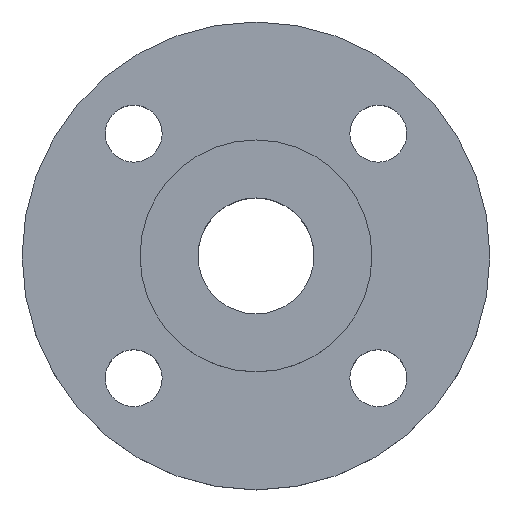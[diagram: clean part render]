
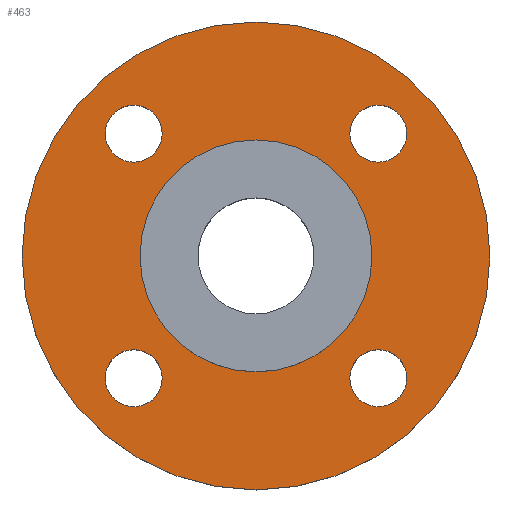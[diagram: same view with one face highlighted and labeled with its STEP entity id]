
A CAD part, top view. The second image highlights one B-rep face of the part: STEP entity #463.
In plain terms, the highlighted planar face has unit normal (0, 0, 1).
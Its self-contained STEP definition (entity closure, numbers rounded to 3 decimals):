
#26 = CIRCLE ( 'NONE', #361, 28.5 ) ;
#52 = DIRECTION ( 'NONE',  ( 0., 0., -1. ) ) ;
#53 = DIRECTION ( 'NONE',  ( -1., 0., 0. ) ) ;
#57 = CARTESIAN_POINT ( 'NONE',  ( 57.5, 0., -4.5 ) ) ;
#60 = CARTESIAN_POINT ( 'NONE',  ( 0., 0., -4.5 ) ) ;
#86 = CARTESIAN_POINT ( 'NONE',  ( 23.052, -30.052, -4.5 ) ) ;
#112 = CARTESIAN_POINT ( 'NONE',  ( -28.5, 0., -4.5 ) ) ;
#113 = CARTESIAN_POINT ( 'NONE',  ( -23.052, -30.052, -4.5 ) ) ;
#117 = CARTESIAN_POINT ( 'NONE',  ( 37.052, -30.052, -4.5 ) ) ;
#147 = CARTESIAN_POINT ( 'NONE',  ( 37.052, 30.052, -4.5 ) ) ;
#148 = DIRECTION ( 'NONE',  ( 1., 0., 0. ) ) ;
#149 = DIRECTION ( 'NONE',  ( 0., 0., -1. ) ) ;
#150 = CARTESIAN_POINT ( 'NONE',  ( -30.052, 30.052, -4.5 ) ) ;
#152 = DIRECTION ( 'NONE',  ( -1., 0., 0. ) ) ;
#153 = DIRECTION ( 'NONE',  ( 0., 0., -1. ) ) ;
#156 = CIRCLE ( 'NONE', #157, 7. ) ;
#157 = AXIS2_PLACEMENT_3D ( 'NONE', #775, #776, #777 ) ;
#159 = CARTESIAN_POINT ( 'NONE',  ( 0., 0., -4.5 ) ) ;
#175 = CARTESIAN_POINT ( 'NONE',  ( -57.5, 0., -4.5 ) ) ;
#179 = CARTESIAN_POINT ( 'NONE',  ( -37.052, -30.052, -4.5 ) ) ;
#180 = CIRCLE ( 'NONE', #184, 7. ) ;
#184 = AXIS2_PLACEMENT_3D ( 'NONE', #790, #791, #792 ) ;
#187 = CARTESIAN_POINT ( 'NONE',  ( -37.052, 30.052, -4.5 ) ) ;
#190 = CARTESIAN_POINT ( 'NONE',  ( -23.052, 30.052, -4.5 ) ) ;
#198 = CARTESIAN_POINT ( 'NONE',  ( 28.5, 0., -4.5 ) ) ;
#209 = CIRCLE ( 'NONE', #211, 57.5 ) ;
#211 = AXIS2_PLACEMENT_3D ( 'NONE', #806, #808, #809 ) ;
#214 = EDGE_CURVE ( 'NONE', #482, #615, #156, .T. ) ;
#222 = CARTESIAN_POINT ( 'NONE',  ( 23.052, 30.052, -4.5 ) ) ;
#224 = FACE_OUTER_BOUND ( 'NONE', #519, .T. ) ;
#225 = DIRECTION ( 'NONE',  ( 0., 0., 1. ) ) ;
#226 = DIRECTION ( 'NONE',  ( 1., 0., 0. ) ) ;
#228 = CARTESIAN_POINT ( 'NONE',  ( 28.5, 0., -4.5 ) ) ;
#230 = DIRECTION ( 'NONE',  ( 0., 0., -1. ) ) ;
#232 = PLANE ( 'NONE',  #320 ) ;
#237 = EDGE_CURVE ( 'NONE', #478, #476, #180, .T. ) ;
#242 = CIRCLE ( 'NONE', #243, 7. ) ;
#243 = AXIS2_PLACEMENT_3D ( 'NONE', #374, #376, #378 ) ;
#255 = FACE_BOUND ( 'NONE', #507, .T. ) ;
#258 = CARTESIAN_POINT ( 'NONE',  ( 30.052, -30.052, -4.5 ) ) ;
#261 = CARTESIAN_POINT ( 'NONE',  ( 0., 0., -4.5 ) ) ;
#274 = CIRCLE ( 'NONE', #275, 57.5 ) ;
#275 = AXIS2_PLACEMENT_3D ( 'NONE', #261, #280, #306 ) ;
#277 = EDGE_CURVE ( 'NONE', #677, #485, #209, .T. ) ;
#278 = CIRCLE ( 'NONE', #279, 7. ) ;
#279 = AXIS2_PLACEMENT_3D ( 'NONE', #258, #312, #299 ) ;
#280 = DIRECTION ( 'NONE',  ( 0., 0., -1. ) ) ;
#283 = CIRCLE ( 'NONE', #284, 7. ) ;
#284 = AXIS2_PLACEMENT_3D ( 'NONE', #309, #294, #304 ) ;
#294 = DIRECTION ( 'NONE',  ( 0., 0., -1. ) ) ;
#299 = DIRECTION ( 'NONE',  ( 1., 0., 0. ) ) ;
#303 = CIRCLE ( 'NONE', #308, 7. ) ;
#304 = DIRECTION ( 'NONE',  ( 1., 0., 0. ) ) ;
#306 = DIRECTION ( 'NONE',  ( -1., 0., 0. ) ) ;
#308 = AXIS2_PLACEMENT_3D ( 'NONE', #437, #438, #441 ) ;
#309 = CARTESIAN_POINT ( 'NONE',  ( -30.052, -30.052, -4.5 ) ) ;
#312 = DIRECTION ( 'NONE',  ( 0., 0., -1. ) ) ;
#314 = CIRCLE ( 'NONE', #316, 7. ) ;
#316 = AXIS2_PLACEMENT_3D ( 'NONE', #352, #230, #325 ) ;
#320 = AXIS2_PLACEMENT_3D ( 'NONE', #228, #225, #226 ) ;
#325 = DIRECTION ( 'NONE',  ( 1., 0., 0. ) ) ;
#344 = CIRCLE ( 'NONE', #345, 28.5 ) ;
#345 = AXIS2_PLACEMENT_3D ( 'NONE', #159, #153, #152 ) ;
#350 = FACE_BOUND ( 'NONE', #621, .T. ) ;
#351 = FACE_BOUND ( 'NONE', #580, .T. ) ;
#352 = CARTESIAN_POINT ( 'NONE',  ( 30.052, 30.052, -4.5 ) ) ;
#353 = CIRCLE ( 'NONE', #355, 7. ) ;
#355 = AXIS2_PLACEMENT_3D ( 'NONE', #150, #149, #148 ) ;
#361 = AXIS2_PLACEMENT_3D ( 'NONE', #60, #52, #53 ) ;
#374 = CARTESIAN_POINT ( 'NONE',  ( 30.052, -30.052, -4.5 ) ) ;
#376 = DIRECTION ( 'NONE',  ( 0., 0., -1. ) ) ;
#378 = DIRECTION ( 'NONE',  ( 1., 0., 0. ) ) ;
#396 = EDGE_CURVE ( 'NONE', #591, #638, #242, .T. ) ;
#421 = FACE_BOUND ( 'NONE', #573, .T. ) ;
#426 = FACE_BOUND ( 'NONE', #585, .T. ) ;
#437 = CARTESIAN_POINT ( 'NONE',  ( 30.052, 30.052, -4.5 ) ) ;
#438 = DIRECTION ( 'NONE',  ( 0., 0., -1. ) ) ;
#441 = DIRECTION ( 'NONE',  ( 1., 0., 0. ) ) ;
#447 = EDGE_CURVE ( 'NONE', #485, #677, #274, .T. ) ;
#450 = EDGE_CURVE ( 'NONE', #638, #591, #278, .T. ) ;
#451 = EDGE_CURVE ( 'NONE', #615, #482, #283, .T. ) ;
#459 = EDGE_CURVE ( 'NONE', #540, #468, #303, .T. ) ;
#462 = EDGE_CURVE ( 'NONE', #468, #540, #314, .T. ) ;
#463 = ADVANCED_FACE ( 'NONE', ( #421, #426, #350, #351, #255, #224 ), #232, .T. ) ;
#468 = VERTEX_POINT ( 'NONE', #222 ) ;
#472 = VERTEX_POINT ( 'NONE', #198 ) ;
#476 = VERTEX_POINT ( 'NONE', #190 ) ;
#478 = VERTEX_POINT ( 'NONE', #187 ) ;
#482 = VERTEX_POINT ( 'NONE', #179 ) ;
#485 = VERTEX_POINT ( 'NONE', #175 ) ;
#507 = EDGE_LOOP ( 'NONE', ( #624, #625 ) ) ;
#519 = EDGE_LOOP ( 'NONE', ( #626, #628 ) ) ;
#527 = EDGE_CURVE ( 'NONE', #472, #631, #344, .T. ) ;
#531 = EDGE_CURVE ( 'NONE', #476, #478, #353, .T. ) ;
#540 = VERTEX_POINT ( 'NONE', #147 ) ;
#573 = EDGE_LOOP ( 'NONE', ( #613, #614 ) ) ;
#580 = EDGE_LOOP ( 'NONE', ( #620, #623 ) ) ;
#585 = EDGE_LOOP ( 'NONE', ( #616, #617 ) ) ;
#591 = VERTEX_POINT ( 'NONE', #117 ) ;
#613 = ORIENTED_EDGE ( 'NONE', *, *, #396, .T. ) ;
#614 = ORIENTED_EDGE ( 'NONE', *, *, #450, .T. ) ;
#615 = VERTEX_POINT ( 'NONE', #113 ) ;
#616 = ORIENTED_EDGE ( 'NONE', *, *, #451, .T. ) ;
#617 = ORIENTED_EDGE ( 'NONE', *, *, #214, .T. ) ;
#618 = ORIENTED_EDGE ( 'NONE', *, *, #531, .T. ) ;
#619 = ORIENTED_EDGE ( 'NONE', *, *, #237, .T. ) ;
#620 = ORIENTED_EDGE ( 'NONE', *, *, #459, .T. ) ;
#621 = EDGE_LOOP ( 'NONE', ( #618, #619 ) ) ;
#623 = ORIENTED_EDGE ( 'NONE', *, *, #462, .T. ) ;
#624 = ORIENTED_EDGE ( 'NONE', *, *, #703, .T. ) ;
#625 = ORIENTED_EDGE ( 'NONE', *, *, #527, .T. ) ;
#626 = ORIENTED_EDGE ( 'NONE', *, *, #277, .F. ) ;
#628 = ORIENTED_EDGE ( 'NONE', *, *, #447, .F. ) ;
#631 = VERTEX_POINT ( 'NONE', #112 ) ;
#638 = VERTEX_POINT ( 'NONE', #86 ) ;
#677 = VERTEX_POINT ( 'NONE', #57 ) ;
#703 = EDGE_CURVE ( 'NONE', #631, #472, #26, .T. ) ;
#775 = CARTESIAN_POINT ( 'NONE',  ( -30.052, -30.052, -4.5 ) ) ;
#776 = DIRECTION ( 'NONE',  ( 0., 0., -1. ) ) ;
#777 = DIRECTION ( 'NONE',  ( 1., 0., 0. ) ) ;
#790 = CARTESIAN_POINT ( 'NONE',  ( -30.052, 30.052, -4.5 ) ) ;
#791 = DIRECTION ( 'NONE',  ( 0., 0., -1. ) ) ;
#792 = DIRECTION ( 'NONE',  ( 1., 0., 0. ) ) ;
#806 = CARTESIAN_POINT ( 'NONE',  ( 0., 0., -4.5 ) ) ;
#808 = DIRECTION ( 'NONE',  ( 0., 0., -1. ) ) ;
#809 = DIRECTION ( 'NONE',  ( -1., 0., 0. ) ) ;
